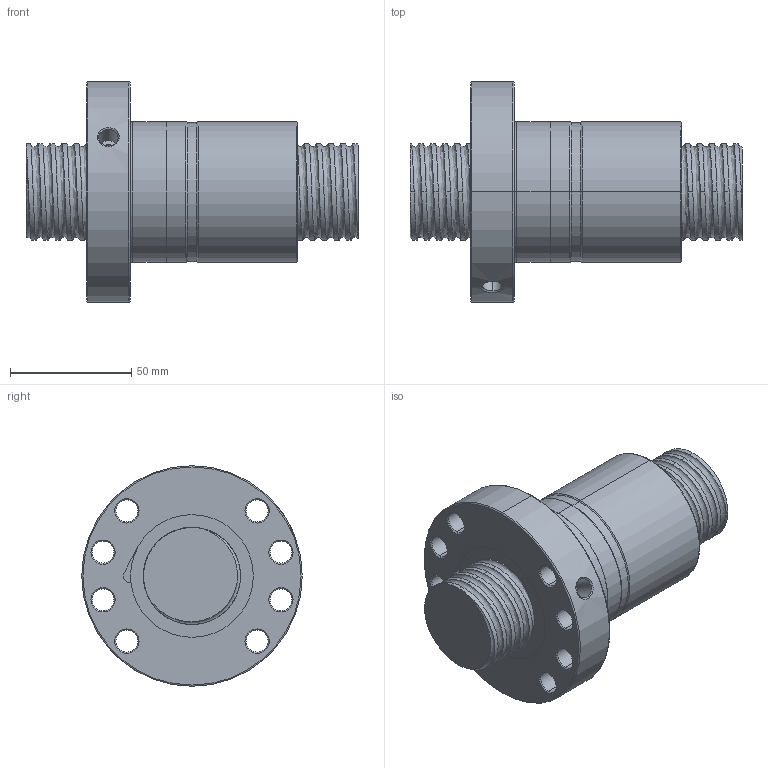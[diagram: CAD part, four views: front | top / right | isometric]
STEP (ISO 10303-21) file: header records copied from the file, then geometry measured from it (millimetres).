
FILE_DESCRIPTION (( 'STEP AP214' ), '1' );
FILE_NAME ('FDDC04005T4-C-A.STEP', '2010-07-06T05:33:35', ( 'XPAUTO' ), ( 'XPAUTO' ), 'SwSTEP 2.0', 'SolidWorks 2007', '' );
FILE_SCHEMA (( 'AUTOMOTIVE_DESIGN' ));
Length unit declared in the file: millimetre
Products named in the file (3): FDDC04005T4-C-A.sldasm-Part-2_預設; FDDC04005T4-C-A; FDDC04005T4-C-A.sldasm-Part-1_預設
Assembly tree (2 placements, depth 2):
  FDDC04005T4-C-A
    FDDC04005T4-C-A.sldasm-Part-1_預設
    FDDC04005T4-C-A.sldasm-Part-2_預設
Bounding box: 137 x 91 x 91 mm (x, y, z)
Volume: 339705.3 mm3; surface area: 66582.4 mm2
Topology: 2 solids, 2 shells, 165 faces, 417 edges, 261 vertices
Faces by surface type: cylinder 102, cone 32, plane 16, torus 10, bspline 5
Entity records: 47575 total; most frequent: CARTESIAN_POINT 43662, ORIENTED_EDGE 834, DIRECTION 751, EDGE_CURVE 417, AXIS2_PLACEMENT_3D 305, VERTEX_POINT 261, EDGE_LOOP 190, FACE_OUTER_BOUND 165
